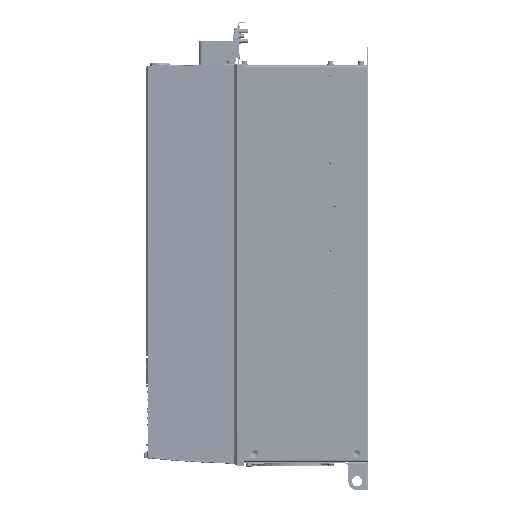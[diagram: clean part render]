
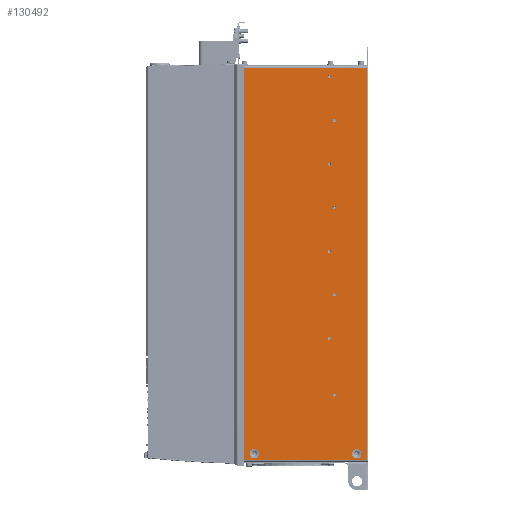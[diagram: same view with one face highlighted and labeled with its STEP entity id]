
A CAD part, left-side view. The second image highlights one B-rep face of the part: STEP entity #130492.
In plain terms, the highlighted planar face has unit normal (-1, 0, 0).
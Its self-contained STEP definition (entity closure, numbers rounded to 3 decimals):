
#32866=DIRECTION('',(0.,0.,-1.));
#32867=VECTOR('',#32866,585.);
#32868=CARTESIAN_POINT('',(-184.5,2.5,292.5));
#32869=LINE('',#32868,#32867);
#32870=DIRECTION('',(0.,1.,0.));
#32871=VECTOR('',#32870,187.5);
#32872=CARTESIAN_POINT('',(-184.5,2.5,-292.5));
#32873=LINE('',#32872,#32871);
#32874=DIRECTION('',(0.,0.,-1.));
#32875=VECTOR('',#32874,585.);
#32876=CARTESIAN_POINT('',(-184.5,190.,292.5));
#32877=LINE('',#32876,#32875);
#32878=DIRECTION('',(0.,-1.,0.));
#32879=VECTOR('',#32878,187.5);
#32880=CARTESIAN_POINT('',(-184.5,190.,292.5));
#32881=LINE('',#32880,#32879);
#32882=CARTESIAN_POINT('',(-184.5,50.5,-195.5));
#32883=DIRECTION('',(1.,0.,0.));
#32884=DIRECTION('',(0.,0.,-1.));
#32885=AXIS2_PLACEMENT_3D('',#32882,#32883,#32884);
#32887=CARTESIAN_POINT('',(-184.5,50.5,-195.5));
#32888=DIRECTION('',(1.,0.,0.));
#32889=DIRECTION('',(0.,0.,1.));
#32890=AXIS2_PLACEMENT_3D('',#32887,#32888,#32889);
#32892=CARTESIAN_POINT('',(-184.5,58.5,-111.));
#32893=DIRECTION('',(1.,0.,0.));
#32894=DIRECTION('',(0.,0.,-1.));
#32895=AXIS2_PLACEMENT_3D('',#32892,#32893,#32894);
#32897=CARTESIAN_POINT('',(-184.5,58.5,-111.));
#32898=DIRECTION('',(1.,0.,0.));
#32899=DIRECTION('',(0.,0.,1.));
#32900=AXIS2_PLACEMENT_3D('',#32897,#32898,#32899);
#32902=CARTESIAN_POINT('',(-184.5,50.5,-46.));
#32903=DIRECTION('',(1.,0.,0.));
#32904=DIRECTION('',(0.,0.,-1.));
#32905=AXIS2_PLACEMENT_3D('',#32902,#32903,#32904);
#32907=CARTESIAN_POINT('',(-184.5,50.5,-46.));
#32908=DIRECTION('',(1.,0.,0.));
#32909=DIRECTION('',(0.,0.,1.));
#32910=AXIS2_PLACEMENT_3D('',#32907,#32908,#32909);
#32912=CARTESIAN_POINT('',(-184.5,58.5,19.));
#32913=DIRECTION('',(1.,0.,0.));
#32914=DIRECTION('',(0.,0.,-1.));
#32915=AXIS2_PLACEMENT_3D('',#32912,#32913,#32914);
#32917=CARTESIAN_POINT('',(-184.5,58.5,19.));
#32918=DIRECTION('',(1.,0.,0.));
#32919=DIRECTION('',(0.,0.,1.));
#32920=AXIS2_PLACEMENT_3D('',#32917,#32918,#32919);
#32922=CARTESIAN_POINT('',(-184.5,50.5,84.));
#32923=DIRECTION('',(1.,0.,0.));
#32924=DIRECTION('',(0.,0.,-1.));
#32925=AXIS2_PLACEMENT_3D('',#32922,#32923,#32924);
#32927=CARTESIAN_POINT('',(-184.5,50.5,84.));
#32928=DIRECTION('',(1.,0.,0.));
#32929=DIRECTION('',(0.,0.,1.));
#32930=AXIS2_PLACEMENT_3D('',#32927,#32928,#32929);
#32932=CARTESIAN_POINT('',(-184.5,58.5,149.));
#32933=DIRECTION('',(1.,0.,0.));
#32934=DIRECTION('',(0.,0.,-1.));
#32935=AXIS2_PLACEMENT_3D('',#32932,#32933,#32934);
#32937=CARTESIAN_POINT('',(-184.5,58.5,149.));
#32938=DIRECTION('',(1.,0.,0.));
#32939=DIRECTION('',(0.,0.,1.));
#32940=AXIS2_PLACEMENT_3D('',#32937,#32938,#32939);
#32942=CARTESIAN_POINT('',(-184.5,50.5,214.));
#32943=DIRECTION('',(1.,0.,0.));
#32944=DIRECTION('',(0.,0.,-1.));
#32945=AXIS2_PLACEMENT_3D('',#32942,#32943,#32944);
#32947=CARTESIAN_POINT('',(-184.5,50.5,214.));
#32948=DIRECTION('',(1.,0.,0.));
#32949=DIRECTION('',(0.,0.,1.));
#32950=AXIS2_PLACEMENT_3D('',#32947,#32948,#32949);
#32952=CARTESIAN_POINT('',(-184.5,58.5,279.));
#32953=DIRECTION('',(1.,0.,0.));
#32954=DIRECTION('',(0.,0.,-1.));
#32955=AXIS2_PLACEMENT_3D('',#32952,#32953,#32954);
#32957=CARTESIAN_POINT('',(-184.5,58.5,279.));
#32958=DIRECTION('',(1.,0.,0.));
#32959=DIRECTION('',(0.,0.,1.));
#32960=AXIS2_PLACEMENT_3D('',#32957,#32958,#32959);
#32962=CARTESIAN_POINT('',(-184.5,170.,-283.));
#32963=DIRECTION('',(1.,0.,0.));
#32964=DIRECTION('',(0.,0.,1.));
#32965=AXIS2_PLACEMENT_3D('',#32962,#32963,#32964);
#32967=CARTESIAN_POINT('',(-184.5,170.,-283.));
#32968=DIRECTION('',(1.,0.,0.));
#32969=DIRECTION('',(0.,0.,-1.));
#32970=AXIS2_PLACEMENT_3D('',#32967,#32968,#32969);
#32972=CARTESIAN_POINT('',(-184.5,17.5,-283.));
#32973=DIRECTION('',(1.,0.,0.));
#32974=DIRECTION('',(0.,0.,1.));
#32975=AXIS2_PLACEMENT_3D('',#32972,#32973,#32974);
#32977=CARTESIAN_POINT('',(-184.5,17.5,-283.));
#32978=DIRECTION('',(1.,0.,0.));
#32979=DIRECTION('',(0.,0.,-1.));
#32980=AXIS2_PLACEMENT_3D('',#32977,#32978,#32979);
#72703=CARTESIAN_POINT('',(-184.5,190.,292.5));
#72704=CARTESIAN_POINT('',(-184.5,190.,-292.5));
#72705=VERTEX_POINT('',#72703);
#72706=VERTEX_POINT('',#72704);
#72743=CARTESIAN_POINT('',(-184.5,2.5,-292.5));
#72745=VERTEX_POINT('',#72743);
#72765=CARTESIAN_POINT('',(-184.5,2.5,292.5));
#72766=VERTEX_POINT('',#72765);
#72895=CARTESIAN_POINT('',(-184.5,50.5,-197.95));
#72896=CARTESIAN_POINT('',(-184.5,50.5,-193.05));
#72897=VERTEX_POINT('',#72895);
#72898=VERTEX_POINT('',#72896);
#72903=CARTESIAN_POINT('',(-184.5,58.5,-113.45));
#72904=CARTESIAN_POINT('',(-184.5,58.5,-108.55));
#72905=VERTEX_POINT('',#72903);
#72906=VERTEX_POINT('',#72904);
#72911=CARTESIAN_POINT('',(-184.5,50.5,-48.45));
#72912=CARTESIAN_POINT('',(-184.5,50.5,-43.55));
#72913=VERTEX_POINT('',#72911);
#72914=VERTEX_POINT('',#72912);
#72919=CARTESIAN_POINT('',(-184.5,58.5,16.55));
#72920=CARTESIAN_POINT('',(-184.5,58.5,21.45));
#72921=VERTEX_POINT('',#72919);
#72922=VERTEX_POINT('',#72920);
#72927=CARTESIAN_POINT('',(-184.5,50.5,81.55));
#72928=CARTESIAN_POINT('',(-184.5,50.5,86.45));
#72929=VERTEX_POINT('',#72927);
#72930=VERTEX_POINT('',#72928);
#72935=CARTESIAN_POINT('',(-184.5,58.5,146.55));
#72936=CARTESIAN_POINT('',(-184.5,58.5,151.45));
#72937=VERTEX_POINT('',#72935);
#72938=VERTEX_POINT('',#72936);
#72943=CARTESIAN_POINT('',(-184.5,50.5,211.55));
#72944=CARTESIAN_POINT('',(-184.5,50.5,216.45));
#72945=VERTEX_POINT('',#72943);
#72946=VERTEX_POINT('',#72944);
#72951=CARTESIAN_POINT('',(-184.5,58.5,276.55));
#72952=CARTESIAN_POINT('',(-184.5,58.5,281.45));
#72953=VERTEX_POINT('',#72951);
#72954=VERTEX_POINT('',#72952);
#81488=CARTESIAN_POINT('',(-184.5,170.,-275.951));
#81489=CARTESIAN_POINT('',(-184.5,170.,-290.049));
#81490=VERTEX_POINT('',#81488);
#81491=VERTEX_POINT('',#81489);
#81496=CARTESIAN_POINT('',(-184.5,17.5,-275.951));
#81497=CARTESIAN_POINT('',(-184.5,17.5,-290.049));
#81498=VERTEX_POINT('',#81496);
#81499=VERTEX_POINT('',#81497);
#130421=CARTESIAN_POINT('',(-184.5,192.5,-295.));
#130422=DIRECTION('',(-1.,0.,0.));
#130423=DIRECTION('',(0.,-1.,0.));
#130424=AXIS2_PLACEMENT_3D('',#130421,#130422,#130423);
#130425=PLANE('',#130424);
#130426=ORIENTED_EDGE('',*,*,#130415,.T.);
#130427=ORIENTED_EDGE('',*,*,#127699,.T.);
#130428=ORIENTED_EDGE('',*,*,#130336,.F.);
#130429=ORIENTED_EDGE('',*,*,#130366,.T.);
#130430=EDGE_LOOP('',(#130426,#130427,#130428,#130429));
#130431=FACE_OUTER_BOUND('',#130430,.F.);
#130433=ORIENTED_EDGE('',*,*,#130432,.F.);
#130435=ORIENTED_EDGE('',*,*,#130434,.F.);
#130436=EDGE_LOOP('',(#130433,#130435));
#130437=FACE_BOUND('',#130436,.F.);
#130439=ORIENTED_EDGE('',*,*,#130438,.F.);
#130441=ORIENTED_EDGE('',*,*,#130440,.F.);
#130442=EDGE_LOOP('',(#130439,#130441));
#130443=FACE_BOUND('',#130442,.F.);
#130445=ORIENTED_EDGE('',*,*,#130444,.F.);
#130447=ORIENTED_EDGE('',*,*,#130446,.F.);
#130448=EDGE_LOOP('',(#130445,#130447));
#130449=FACE_BOUND('',#130448,.F.);
#130451=ORIENTED_EDGE('',*,*,#130450,.F.);
#130453=ORIENTED_EDGE('',*,*,#130452,.F.);
#130454=EDGE_LOOP('',(#130451,#130453));
#130455=FACE_BOUND('',#130454,.F.);
#130457=ORIENTED_EDGE('',*,*,#130456,.F.);
#130459=ORIENTED_EDGE('',*,*,#130458,.F.);
#130460=EDGE_LOOP('',(#130457,#130459));
#130461=FACE_BOUND('',#130460,.F.);
#130463=ORIENTED_EDGE('',*,*,#130462,.F.);
#130465=ORIENTED_EDGE('',*,*,#130464,.F.);
#130466=EDGE_LOOP('',(#130463,#130465));
#130467=FACE_BOUND('',#130466,.F.);
#130469=ORIENTED_EDGE('',*,*,#130468,.F.);
#130471=ORIENTED_EDGE('',*,*,#130470,.F.);
#130472=EDGE_LOOP('',(#130469,#130471));
#130473=FACE_BOUND('',#130472,.F.);
#130475=ORIENTED_EDGE('',*,*,#130474,.F.);
#130477=ORIENTED_EDGE('',*,*,#130476,.F.);
#130478=EDGE_LOOP('',(#130475,#130477));
#130479=FACE_BOUND('',#130478,.F.);
#130481=ORIENTED_EDGE('',*,*,#130480,.F.);
#130483=ORIENTED_EDGE('',*,*,#130482,.F.);
#130484=EDGE_LOOP('',(#130481,#130483));
#130485=FACE_BOUND('',#130484,.F.);
#130487=ORIENTED_EDGE('',*,*,#130486,.F.);
#130489=ORIENTED_EDGE('',*,*,#130488,.F.);
#130490=EDGE_LOOP('',(#130487,#130489));
#130491=FACE_BOUND('',#130490,.F.);
#32886=CIRCLE('',#32885,2.45);
#32891=CIRCLE('',#32890,2.45);
#32896=CIRCLE('',#32895,2.45);
#32901=CIRCLE('',#32900,2.45);
#32906=CIRCLE('',#32905,2.45);
#32911=CIRCLE('',#32910,2.45);
#32916=CIRCLE('',#32915,2.45);
#32921=CIRCLE('',#32920,2.45);
#32926=CIRCLE('',#32925,2.45);
#32931=CIRCLE('',#32930,2.45);
#32936=CIRCLE('',#32935,2.45);
#32941=CIRCLE('',#32940,2.45);
#32946=CIRCLE('',#32945,2.45);
#32951=CIRCLE('',#32950,2.45);
#32956=CIRCLE('',#32955,2.45);
#32961=CIRCLE('',#32960,2.45);
#32966=CIRCLE('',#32965,7.049);
#32971=CIRCLE('',#32970,7.049);
#32976=CIRCLE('',#32975,7.049);
#32981=CIRCLE('',#32980,7.049);
#127699=EDGE_CURVE('',#72745,#72706,#32873,.T.);
#130336=EDGE_CURVE('',#72705,#72706,#32877,.T.);
#130366=EDGE_CURVE('',#72705,#72766,#32881,.T.);
#130415=EDGE_CURVE('',#72766,#72745,#32869,.T.);
#130432=EDGE_CURVE('',#72897,#72898,#32886,.T.);
#130434=EDGE_CURVE('',#72898,#72897,#32891,.T.);
#130438=EDGE_CURVE('',#72905,#72906,#32896,.T.);
#130440=EDGE_CURVE('',#72906,#72905,#32901,.T.);
#130444=EDGE_CURVE('',#72913,#72914,#32906,.T.);
#130446=EDGE_CURVE('',#72914,#72913,#32911,.T.);
#130450=EDGE_CURVE('',#72921,#72922,#32916,.T.);
#130452=EDGE_CURVE('',#72922,#72921,#32921,.T.);
#130456=EDGE_CURVE('',#72929,#72930,#32926,.T.);
#130458=EDGE_CURVE('',#72930,#72929,#32931,.T.);
#130462=EDGE_CURVE('',#72937,#72938,#32936,.T.);
#130464=EDGE_CURVE('',#72938,#72937,#32941,.T.);
#130468=EDGE_CURVE('',#72945,#72946,#32946,.T.);
#130470=EDGE_CURVE('',#72946,#72945,#32951,.T.);
#130474=EDGE_CURVE('',#72953,#72954,#32956,.T.);
#130476=EDGE_CURVE('',#72954,#72953,#32961,.T.);
#130480=EDGE_CURVE('',#81490,#81491,#32966,.T.);
#130482=EDGE_CURVE('',#81491,#81490,#32971,.T.);
#130486=EDGE_CURVE('',#81498,#81499,#32976,.T.);
#130488=EDGE_CURVE('',#81499,#81498,#32981,.T.);
#130492=ADVANCED_FACE('',(#130431,#130437,#130443,#130449,#130455,#130461,
#130467,#130473,#130479,#130485,#130491),#130425,.T.);
